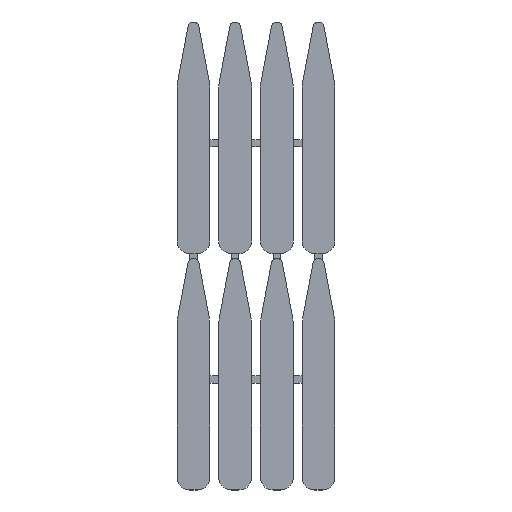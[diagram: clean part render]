
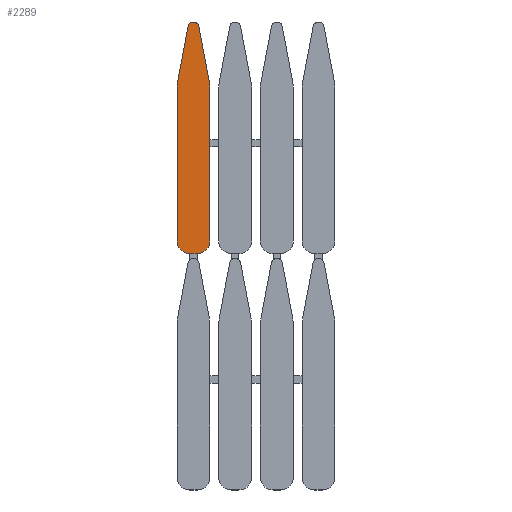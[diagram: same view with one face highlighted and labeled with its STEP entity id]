
A CAD part, top view. The second image highlights one B-rep face of the part: STEP entity #2289.
In plain terms, the highlighted planar face has unit normal (0, 0, 1).
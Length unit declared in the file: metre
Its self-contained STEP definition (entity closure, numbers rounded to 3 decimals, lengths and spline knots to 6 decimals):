
#13=CIRCLE('',#2414,0.0035);
#15=CIRCLE('',#2418,0.0035);
#17=CIRCLE('',#2422,0.01);
#19=CIRCLE('',#2426,0.0015);
#21=CIRCLE('',#2430,0.01);
#186=ORIENTED_EDGE('',*,*,#847,.F.);
#187=ORIENTED_EDGE('',*,*,#851,.T.);
#188=ORIENTED_EDGE('',*,*,#854,.T.);
#189=ORIENTED_EDGE('',*,*,#857,.F.);
#190=ORIENTED_EDGE('',*,*,#863,.T.);
#191=ORIENTED_EDGE('',*,*,#868,.T.);
#192=ORIENTED_EDGE('',*,*,#871,.T.);
#193=ORIENTED_EDGE('',*,*,#874,.T.);
#194=ORIENTED_EDGE('',*,*,#877,.F.);
#195=ORIENTED_EDGE('',*,*,#879,.T.);
#847=EDGE_CURVE('',#1199,#1196,#1431,.T.);
#851=EDGE_CURVE('',#1199,#1202,#13,.T.);
#854=EDGE_CURVE('',#1202,#1204,#1436,.T.);
#857=EDGE_CURVE('',#1207,#1204,#15,.T.);
#863=EDGE_CURVE('',#1207,#1212,#1443,.T.);
#868=EDGE_CURVE('',#1212,#1215,#17,.T.);
#871=EDGE_CURVE('',#1215,#1217,#1449,.T.);
#874=EDGE_CURVE('',#1217,#1219,#19,.T.);
#877=EDGE_CURVE('',#1221,#1219,#1453,.T.);
#879=EDGE_CURVE('',#1221,#1196,#21,.T.);
#1196=VERTEX_POINT('',#3301);
#1199=VERTEX_POINT('',#3306);
#1202=VERTEX_POINT('',#3314);
#1204=VERTEX_POINT('',#3320);
#1207=VERTEX_POINT('',#3327);
#1212=VERTEX_POINT('',#3339);
#1215=VERTEX_POINT('',#3348);
#1217=VERTEX_POINT('',#3354);
#1219=VERTEX_POINT('',#3360);
#1221=VERTEX_POINT('',#3366);
#1431=LINE('',#3307,#1695);
#1436=LINE('',#3321,#1700);
#1443=LINE('',#3340,#1707);
#1449=LINE('',#3355,#1713);
#1453=LINE('',#3367,#1717);
#1695=VECTOR('',#2625,1.);
#1700=VECTOR('',#2638,1.);
#1707=VECTOR('',#2653,1.);
#1713=VECTOR('',#2667,1.);
#1717=VECTOR('',#2679,1.);
#1966=EDGE_LOOP('',(#186,#187,#188,#189,#190,#191,#192,#193,#194,#195));
#2088=FACE_BOUND('',#1966,.T.);
#2205=PLANE('',#2431);
#2289=ADVANCED_FACE('',(#2088),#2205,.T.);
#2414=AXIS2_PLACEMENT_3D('',#3315,#2632,#2633);
#2418=AXIS2_PLACEMENT_3D('',#3328,#2644,#2645);
#2422=AXIS2_PLACEMENT_3D('',#3349,#2661,#2662);
#2426=AXIS2_PLACEMENT_3D('',#3361,#2673,#2674);
#2430=AXIS2_PLACEMENT_3D('',#3370,#2684,#2685);
#2431=AXIS2_PLACEMENT_3D('',#3371,#2686,#2687);
#2625=DIRECTION('',(0.,1.,0.));
#2632=DIRECTION('',(0.,0.,1.));
#2633=DIRECTION('',(1.,0.,0.));
#2638=DIRECTION('',(1.,0.,0.));
#2644=DIRECTION('',(0.,0.,-1.));
#2645=DIRECTION('',(1.,0.,0.));
#2653=DIRECTION('',(0.,1.,0.));
#2661=DIRECTION('',(0.,0.,1.));
#2662=DIRECTION('',(1.,0.,0.));
#2667=DIRECTION('',(-0.186,0.983,0.));
#2673=DIRECTION('',(0.,0.,1.));
#2674=DIRECTION('',(1.,0.,0.));
#2679=DIRECTION('',(0.186,0.983,0.));
#2684=DIRECTION('',(0.,0.,1.));
#2685=DIRECTION('',(1.,0.,0.));
#2686=DIRECTION('',(0.,0.,1.));
#2687=DIRECTION('',(1.,0.,0.));
#3301=CARTESIAN_POINT('',(-0.0045,0.045341,0.00085));
#3306=CARTESIAN_POINT('',(-0.0045,0.0035,0.00085));
#3307=CARTESIAN_POINT('',(-0.0045,0.024421,0.00085));
#3314=CARTESIAN_POINT('',(-0.001,0.,0.00085));
#3315=CARTESIAN_POINT('',(-0.001,0.0035,0.00085));
#3320=CARTESIAN_POINT('',(0.001,0.,0.00085));
#3321=CARTESIAN_POINT('',(-0.0005,0.,0.00085));
#3327=CARTESIAN_POINT('',(0.0045,0.0035,0.00085));
#3328=CARTESIAN_POINT('',(0.001,0.0035,0.00085));
#3339=CARTESIAN_POINT('',(0.0045,0.045341,0.00085));
#3340=CARTESIAN_POINT('',(0.0045,0.024421,0.00085));
#3348=CARTESIAN_POINT('',(0.004326,0.0472,0.00085));
#3349=CARTESIAN_POINT('',(-0.0055,0.045341,0.00085));
#3354=CARTESIAN_POINT('',(0.001474,0.062279,0.00085));
#3355=CARTESIAN_POINT('',(0.0029,0.054739,0.00085));
#3360=CARTESIAN_POINT('',(-0.001474,0.062279,0.00085));
#3361=CARTESIAN_POINT('',(0.,0.062,0.00085));
#3366=CARTESIAN_POINT('',(-0.004326,0.0472,0.00085));
#3367=CARTESIAN_POINT('',(-0.0029,0.054739,0.00085));
#3370=CARTESIAN_POINT('',(0.0055,0.045341,0.00085));
#3371=CARTESIAN_POINT('',(-0.135426,0.056801,0.00085));
